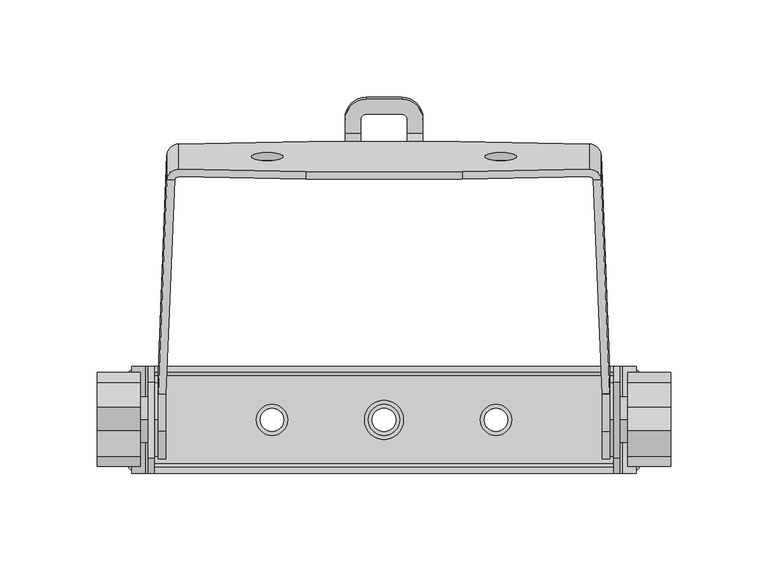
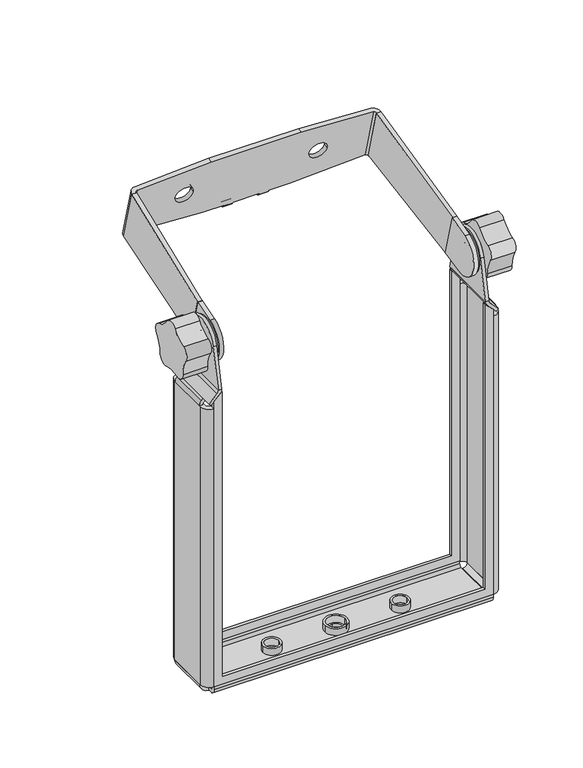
"""IFC4 building model written with IfcOpenShell, lengths in millimetres: proxy geometry, d&b U-Series U5 Swivel Bracket : d&b U-Series U5 Swivel Bracket."""

from ifc_helpers import new_model, si_unit, point, frame, frame_2d, origin, origin_2d, place, context, project, spatial, polyline, circle_curve, ellipse_curve, trimmed, segment, composite_curve, outline, extrude, source, transform, mapped, element, save
from ifc_brep_helpers import plane_surface, cylinder_surface, revolved_surface, advanced_brep


def communication_devices_1533c05a(model_context):
    return source(origin(), model_context, "Body", "SolidModel", [
        extrude(outline(composite_curve([segment(polyline([(13.2450116, 24.9632416), (23.9521373, -14.9962955), (4.4990211, -19.4874013)]), True, "CONTINUOUS"), segment(trimmed(circle_curve(origin_2d(), 20.0), [point((4.4990211, -19.4874013))], [point((-5.8474341, 19.1260951))], False, "CARTESIAN"), True, "CONTINUOUS"), segment(polyline([(-5.8474341, 19.1260951), (13.2450116, 24.9632416)]), True, "CONTINUOUS")], self_intersect=False)), frame((112.0, 0.0, 0.0), z_axis=(1.0, 0.0, 0.0), x_axis=(0.0, 1.0, 0.0)), (0.0, 0.0, 1.0), 4.0),
        extrude(outline(polyline([(50.6494, -1e-07), (1.1967784, -1e-07), (5.2119988, 115.0695853), (46.6310815, 115.0695852), (50.6494, -1e-07)])), frame((107.5178438, 136.2192095, 9.6625045), z_axis=(0.999229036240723, 0.037922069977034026, 0.010161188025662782), x_axis=(0.0, -0.25881904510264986, 0.9659258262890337)), (0.0, 0.0, 1.0), 4.0),
        extrude(outline(polyline([(115.1397253, 0.0), (0.0, 0.0), (-1.4455052, 41.3938513), (113.4138537, 49.4224964), (115.1397253, 0.0)])), frame((-112.0354545, 13.0872049, 24.9454313), z_axis=(-0.9992290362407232, 0.03792206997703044, 0.010161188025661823), x_axis=(0.039235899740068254, 0.9555605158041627, 0.2921722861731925)), (0.0, 0.0, 1.0), 4.0),
        advanced_brep(
        [(105.5193847, 124.8966904, 59.3428554), (40.2257983, 123.7149815, 63.7530528), (-40.2257983, 123.7149815, 63.7530528), (-105.5199471, 124.8967005, 59.3428174), (-105.5199471, 137.8351242, 11.0559629), (-38.8830085, 139.0411456, 6.5550299), (-20.0, 139.0411456, 6.5550299), (-20.0, 139.2764251, 5.6769548), (-12.0, 139.2764251, 5.6769548), (-12.0, 139.0411456, 6.5550299), (12.0, 139.0411456, 6.5550299), (12.0, 139.2764251, 5.6769548), (20.0, 139.2764251, 5.6769548), (20.0, 139.0411456, 6.5550299), (38.8830085, 139.0411456, 6.5550299), (105.5193847, 137.8351344, 11.0559249), (-68.015413, 131.3780635, 35.1540414), (-51.9395257, 131.3780635, 35.1540414), (68.015413, 131.3780635, 35.1540414), (51.9395257, 131.3780635, 35.1540414), (-105.5199471, 128.7604038, 60.3780936), (-40.2257983, 127.5786848, 64.788329), (40.2257983, 127.5786848, 64.788329), (105.5193847, 128.7603937, 60.3781316), (105.5193847, 141.6988377, 12.091201), (38.8830085, 142.9048489, 7.5903061), (20.0, 142.9048489, 7.5903061), (12.0, 142.9048489, 7.5903061), (-12.0, 142.9048489, 7.5903061), (-20.0, 142.9048489, 7.5903061), (-38.8830085, 142.9048489, 7.5903061), (-105.5199471, 141.6988275, 12.091239), (-51.9395257, 135.2417668, 36.1893175), (-68.015413, 135.2417668, 36.1893175), (51.9395257, 135.2417668, 36.1893175), (68.015413, 135.2417668, 36.1893175), (111.5141974, 123.3008455, 58.4812642), (107.5178428, 123.0768517, 58.7105556), (107.5178428, 135.942958, 10.6935932), (111.5141974, 136.0222966, 11.0041623), (-107.5184052, 123.0768619, 58.7105176), (-107.5184052, 135.9429478, 10.6936312), (-111.5147598, 123.3008556, 58.4812262), (-111.5147598, 136.0222864, 11.0042003), (-12.0, 148.3971842, 2.5474447), (-12.0, 155.158665, 4.359178), (-12.0, 154.1233888, 8.2228813), (-12.0, 147.361908, 6.411148), (-20.0, 147.361908, 6.411148), (-20.0, 154.1233888, 8.2228813), (-20.0, 155.158665, 4.359178), (-20.0, 148.3971842, 2.5474447), (-9.0, 157.0211663, 8.9993385), (9.0, 157.0211663, 8.9993385), (12.0, 154.1233888, 8.2228813), (12.0, 147.361908, 6.411148), (20.0, 147.361908, 6.411148), (20.0, 154.1233888, 8.2228813), (9.0, 164.7485729, 11.0698908), (-9.0, 164.7485729, 11.0698908), (-9.0, 165.7838491, 7.2061875), (9.0, 165.7838491, 7.2061875), (20.0, 155.158665, 4.359178), (20.0, 148.3971842, 2.5474447), (12.0, 148.3971842, 2.5474447), (12.0, 155.158665, 4.359178), (9.0, 158.0564425, 5.1356352), (-9.0, 158.0564425, 5.1356352)],
        [
            (0, 1),
            (1, 2),
            (2, 3),
            (3, 4),
            (4, 5),
            (5, 6),
            (6, 7),
            (7, 8),
            (8, 9),
            (9, 10),
            (10, 11),
            (11, 12),
            (12, 13),
            (13, 14),
            (14, 15),
            (15, 0),
            (16, 17, circle_curve(frame((-59.9774693, 131.3780635, 35.1540414), z_axis=(0.0, 0.9659258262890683, 0.2588190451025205), x_axis=(1.0, 0.0, 0.0)), 8.0379437)),
            (17, 16, circle_curve(frame((-59.9774693, 131.3780635, 35.1540414), z_axis=(0.0, 0.9659258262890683, 0.2588190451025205), x_axis=(1.0, 0.0, 0.0)), 8.0379437)),
            (18, 19, circle_curve(frame((59.9774693, 131.3780635, 35.1540414), z_axis=(0.0, 0.9659258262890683, 0.2588190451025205), x_axis=(-1.0, 0.0, 0.0)), 8.0379437)),
            (19, 18, circle_curve(frame((59.9774693, 131.3780635, 35.1540414), z_axis=(0.0, 0.9659258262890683, 0.2588190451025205), x_axis=(-1.0, 0.0, 0.0)), 8.0379437)),
            (20, 21),
            (21, 22),
            (22, 23),
            (23, 24),
            (24, 25),
            (25, 26),
            (26, 27),
            (27, 28),
            (28, 29),
            (29, 30),
            (30, 31),
            (31, 20),
            (32, 33, circle_curve(frame((-59.9774693, 135.2417668, 36.1893175), z_axis=(0.0, -0.9659258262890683, -0.2588190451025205), x_axis=(1.0, 0.0, 0.0)), 8.0379437)),
            (33, 32, circle_curve(frame((-59.9774693, 135.2417668, 36.1893175), z_axis=(0.0, -0.9659258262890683, -0.2588190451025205), x_axis=(1.0, 0.0, 0.0)), 8.0379437)),
            (34, 35, circle_curve(frame((59.9774693, 135.2417668, 36.1893175), z_axis=(0.0, -0.9659258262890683, -0.2588190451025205), x_axis=(-1.0, 0.0, 0.0)), 8.0379437)),
            (35, 34, circle_curve(frame((59.9774693, 135.2417668, 36.1893175), z_axis=(0.0, -0.9659258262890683, -0.2588190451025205), x_axis=(-1.0, 0.0, 0.0)), 8.0379437)),
            (36, 37),
            (37, 38),
            (38, 39),
            (39, 36),
            (17, 32),
            (33, 16),
            (19, 34),
            (35, 18),
            (3, 40, ellipse_curve(frame((-105.5199471, 122.9648489, 58.8251793), z_axis=(-0.0697564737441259, -0.2581885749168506, 0.9635728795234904), x_axis=(-0.9975640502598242, 0.018054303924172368, -0.06737957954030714)), 2.0048838, 2.0)),
            (40, 41),
            (41, 4, ellipse_curve(frame((-105.5199471, 135.9032726, 10.5383248), z_axis=(-0.06975647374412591, 0.2581885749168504, -0.9635728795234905), x_axis=(0.9975640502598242, 0.018054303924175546, -0.06737957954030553)), 2.0048838, 2.0)),
            (40, 42),
            (42, 43),
            (43, 41),
            (31, 43, ellipse_curve(frame((-105.5199471, 135.9038376, 10.5384762), z_axis=(0.06975647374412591, -0.2581885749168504, 0.9635728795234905), x_axis=(-0.9975640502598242, -0.018054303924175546, 0.06737957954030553)), 6.014065, 5.9994151)),
            (42, 20, ellipse_curve(frame((-105.5199471, 122.9654139, 58.8253307), z_axis=(0.0697564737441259, 0.2581885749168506, -0.9635728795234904), x_axis=(0.9975640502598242, -0.018054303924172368, 0.06737957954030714)), 6.014065, 5.9994151)),
            (39, 24, ellipse_curve(frame((105.5193847, 135.9038477, 10.5384382), z_axis=(-0.06975647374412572, -0.2581885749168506, 0.9635728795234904), x_axis=(0.9975640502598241, -0.018054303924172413, 0.06737957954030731)), 6.014065, 5.9994151)),
            (23, 36, ellipse_curve(frame((105.5193847, 122.9654037, 58.8253687), z_axis=(-0.06975647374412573, 0.25818857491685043, -0.9635728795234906), x_axis=(-0.9975640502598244, -0.018054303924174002, 0.06737957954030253)), 6.014065, 5.9994151)),
            (15, 38, ellipse_curve(frame((105.5193847, 135.9032827, 10.5382868), z_axis=(0.06975647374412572, 0.2581885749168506, -0.9635728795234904), x_axis=(-0.9975640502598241, 0.018054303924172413, -0.06737957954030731)), 2.0048838, 2.0)),
            (37, 0, ellipse_curve(frame((105.5193847, 122.9648387, 58.8252173), z_axis=(0.06975647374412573, -0.25818857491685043, 0.9635728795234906), x_axis=(0.9975640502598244, 0.018054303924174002, -0.06737957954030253)), 2.0048838, 2.0)),
            (14, 25),
            (13, 26),
            (29, 6),
            (5, 30),
            (27, 10),
            (9, 28),
            (2, 21),
            (1, 22),
            (8, 44, circle_curve(frame((-12.0, 146.1620649, 10.8890236), z_axis=(1.0, 0.0, 0.0), x_axis=(0.0, -0.9659258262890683, -0.2588190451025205)), 8.635838)),
            (44, 45),
            (45, 46),
            (46, 47),
            (47, 28, circle_curve(frame((-12.0, 146.1620649, 10.8890236), z_axis=(-1.0, 0.0, 0.0), x_axis=(0.0, -0.9659258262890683, -0.2588190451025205)), 4.635838)),
            (29, 48, circle_curve(frame((-20.0, 146.1620649, 10.8890236), z_axis=(1.0, 0.0, 0.0), x_axis=(0.0, -0.9659258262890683, -0.2588190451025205)), 4.635838)),
            (48, 49),
            (49, 50),
            (50, 51),
            (51, 7, circle_curve(frame((-20.0, 146.1620649, 10.8890236), z_axis=(-1.0, 0.0, 0.0), x_axis=(0.0, -0.9659258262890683, -0.2588190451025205)), 8.635838)),
            (46, 52, circle_curve(frame((-9.0, 154.1233888, 8.2228813), z_axis=(0.0, 0.2588190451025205, -0.9659258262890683), x_axis=(1.0, 0.0, 0.0)), 3.0)),
            (52, 53),
            (53, 54, circle_curve(frame((9.0, 154.1233888, 8.2228813), z_axis=(0.0, 0.2588190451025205, -0.9659258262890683), x_axis=(-1.0, 0.0, 0.0)), 3.0)),
            (54, 55),
            (55, 56),
            (56, 57),
            (57, 58, circle_curve(frame((9.0, 154.1233888, 8.2228813), z_axis=(0.0, -0.2588190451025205, 0.9659258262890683), x_axis=(-1.0, 0.0, 0.0)), 11.0)),
            (58, 59),
            (59, 49, circle_curve(frame((-9.0, 154.1233888, 8.2228813), z_axis=(0.0, -0.2588190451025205, 0.9659258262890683), x_axis=(1.0, 0.0, 0.0)), 11.0)),
            (48, 47),
            (44, 51),
            (50, 60, circle_curve(frame((-9.0, 155.158665, 4.359178), z_axis=(0.0, 0.2588190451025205, -0.9659258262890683), x_axis=(1.0, 0.0, 0.0)), 11.0)),
            (60, 61),
            (61, 62, circle_curve(frame((9.0, 155.158665, 4.359178), z_axis=(0.0, 0.2588190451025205, -0.9659258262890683), x_axis=(-1.0, 0.0, 0.0)), 11.0)),
            (62, 63),
            (63, 64),
            (64, 65),
            (65, 66, circle_curve(frame((9.0, 155.158665, 4.359178), z_axis=(0.0, -0.2588190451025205, 0.9659258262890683), x_axis=(-1.0, 0.0, 0.0)), 3.0)),
            (66, 67),
            (67, 45, circle_curve(frame((-9.0, 155.158665, 4.359178), z_axis=(0.0, -0.2588190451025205, 0.9659258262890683), x_axis=(1.0, 0.0, 0.0)), 3.0)),
            (27, 55, circle_curve(frame((12.0, 146.1620649, 10.8890236), z_axis=(1.0, 0.0, 0.0), x_axis=(0.0, -0.9659258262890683, -0.2588190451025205)), 4.635838)),
            (54, 65),
            (64, 11, circle_curve(frame((12.0, 146.1620649, 10.8890236), z_axis=(-1.0, 0.0, 0.0), x_axis=(0.0, -0.9659258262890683, -0.2588190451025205)), 8.635838)),
            (12, 63, circle_curve(frame((20.0, 146.1620649, 10.8890236), z_axis=(1.0, 0.0, 0.0), x_axis=(0.0, -0.9659258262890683, -0.2588190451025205)), 8.635838)),
            (62, 57),
            (56, 26, circle_curve(frame((20.0, 146.1620649, 10.8890236), z_axis=(-1.0, 0.0, 0.0), x_axis=(0.0, -0.9659258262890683, -0.2588190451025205)), 4.635838)),
            (52, 67),
            (66, 53),
            (59, 60),
            (58, 61),
        ],
        [
            plane_surface(frame((105.5193847, 118.7096214, 82.4333112), z_axis=(0.0, -0.9659258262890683, -0.2588190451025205), x_axis=(0.0, 0.2588190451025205, -0.9659258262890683))),
            plane_surface(frame((-105.5199471, 122.5733247, 83.4685873), z_axis=(0.0, 0.9659258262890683, 0.2588190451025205), x_axis=(0.0, 0.2588190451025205, -0.9659258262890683))),
            plane_surface(frame((111.5141974, 117.00528, 81.9766343), z_axis=(0.0392596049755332, -0.9651811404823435, -0.25861950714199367), x_axis=(0.0, 0.2588190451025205, -0.9659258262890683))),
            revolved_surface(polyline([(-51.9395256, 135.2417667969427, 36.18931751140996), (-51.9395256, 131.37806351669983, 35.1540413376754)]), (-59.9774693, 111.0936212, 29.7188414), (0.0, 0.9659258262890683, 0.2588190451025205)),
            revolved_surface(polyline([(51.9395256, 135.2417668, 36.1893175), (51.9395256, 131.37806351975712, 35.15404132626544)]), (59.9774693, 135.2417668, 36.1893175), (0.0, 0.9659258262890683, 0.2588190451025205)),
            revolved_surface(polyline([(-107.5199471, 135.93946934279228, 10.403236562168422), (-107.5199471, 122.92865210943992, 58.960267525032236)]), (-105.5199471, 140.0863371, -5.0730846), (0.0, 0.2588190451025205, -0.9659258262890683)),
            plane_surface(frame((-107.5184052, 116.8536139, 81.9359954), z_axis=(-0.039259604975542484, -0.9651811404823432, -0.2586195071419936), x_axis=(0.0, 0.2588190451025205, -0.9659258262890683))),
            cylinder_surface(frame((-105.5199471, 140.0869021, -5.0729332), z_axis=(0.0, -0.2588190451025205, 0.9659258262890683), x_axis=(-1.0, 0.0, 0.0)), 5.9994151),
            cylinder_surface(frame((105.5193847, 140.0869021, -5.0729332), z_axis=(0.0, -0.2588190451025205, 0.9659258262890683), x_axis=(1.0, 0.0, 0.0)), 5.9994151),
            revolved_surface(polyline([(107.5193847, 135.939479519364, 10.403198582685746), (107.5193847, 122.92864192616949, 58.96030552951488)]), (105.5193847, 140.0863371, -5.0730846), (0.0, 0.2588190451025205, -0.9659258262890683)),
            plane_surface(frame((141.9929542, 223.2862044, 36.5929217), z_axis=(0.06975647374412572, 0.2581885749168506, -0.9635728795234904), x_axis=(0.0, -0.9659258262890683, -0.2588190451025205))),
            plane_surface(frame((38.8830085, 225.1523285, 29.6284518), z_axis=(0.0, 0.2588190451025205, -0.9659258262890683), x_axis=(0.0, -0.9659258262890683, -0.2588190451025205))),
            plane_surface(frame((-38.8830085, 225.1523285, 29.6284518), z_axis=(-0.06975647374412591, 0.2581885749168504, -0.9635728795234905), x_axis=(0.0, -0.9659258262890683, -0.2588190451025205))),
            plane_surface(frame((-148.0070458, 211.7768315, 79.5464859), z_axis=(-0.0697564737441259, -0.2581885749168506, 0.9635728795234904), x_axis=(0.0, -0.9659258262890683, -0.2588190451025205))),
            plane_surface(frame((-40.2257983, 209.8261644, 86.8264747), z_axis=(0.0, -0.2588190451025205, 0.9659258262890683), x_axis=(0.0, -0.9659258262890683, -0.2588190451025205))),
            plane_surface(frame((40.2257983, 209.8261644, 86.8264747), z_axis=(0.06975647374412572, -0.2581885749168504, 0.9635728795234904), x_axis=(0.0, -0.9659258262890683, -0.2588190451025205))),
            plane_surface(frame((-12.0, 139.0411456, 6.5550299), z_axis=(1.0, 0.0, 0.0), x_axis=(0.0, 0.9659258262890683, 0.2588190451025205))),
            plane_surface(frame((-20.0, 139.0411456, 6.5550299), z_axis=(-1.0, 0.0, 0.0), x_axis=(0.0, -0.9659258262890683, -0.2588190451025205))),
            plane_surface(frame((-12.0, 147.361908, 6.411148), z_axis=(0.0, -0.258819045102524, 0.9659258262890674), x_axis=(-1.0, 0.0, 0.0))),
            plane_surface(frame((-12.0, 155.158665, 4.359178), z_axis=(0.0, 0.258819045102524, -0.9659258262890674), x_axis=(-1.0, 0.0, 0.0))),
            plane_surface(frame((12.0, 137.4509747, 12.4896283), z_axis=(-1.0000000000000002, 0.0, 0.0), x_axis=(0.0, 0.2588190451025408, -0.965925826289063))),
            plane_surface(frame((20.0, 137.4509747, 12.4896283), z_axis=(1.0000000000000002, 0.0, 0.0), x_axis=(0.0, -0.2588190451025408, 0.965925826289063))),
            plane_surface(frame((9.0, 157.0211663, 8.9993385), z_axis=(0.0, -0.9659258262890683, -0.2588190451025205), x_axis=(0.0, 0.2588190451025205, -0.9659258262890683))),
            revolved_surface(polyline([(-6.0, 155.158665, 4.359178), (-6.0, 154.12338880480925, 8.222881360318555)]), (-9.0, 155.158665, 4.359178), (0.0, 0.2588190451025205, -0.9659258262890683)),
            cylinder_surface(frame((-9.0, 155.158665, 4.359178), z_axis=(0.0, -0.2588190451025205, 0.9659258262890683), x_axis=(1.0, 0.0, 0.0)), 11.0),
            plane_surface(frame((-9.0, 164.7485729, 11.0698908), z_axis=(0.0, 0.9659258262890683, 0.2588190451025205), x_axis=(0.0, 0.2588190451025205, -0.9659258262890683))),
            cylinder_surface(frame((9.0, 155.158665, 4.359178), z_axis=(0.0, -0.2588190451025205, 0.9659258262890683), x_axis=(-1.0, 0.0, 0.0)), 11.0),
            revolved_surface(polyline([(6.0, 155.158665, 4.359178), (6.0, 154.12338880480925, 8.222881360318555)]), (9.0, 155.158665, 4.359178), (0.0, 0.2588190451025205, -0.9659258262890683)),
            revolved_surface(polyline([(-20.0, 141.68418924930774, 9.689180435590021), (-12.0, 141.68418924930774, 9.689180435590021)]), (-20.0, 146.1620649, 10.8890236), (-1.0, 0.0, 0.0)),
            cylinder_surface(frame((-20.0, 146.1620649, 10.8890236), z_axis=(1.0, 0.0, 0.0), x_axis=(0.0, -0.9659258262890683, -0.2588190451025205)), 8.635838),
            cylinder_surface(frame((20.0, 146.1620649, 10.8890236), z_axis=(-1.0, 0.0, 0.0), x_axis=(0.0, -0.9659258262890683, -0.2588190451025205)), 8.635838),
            revolved_surface(polyline([(20.0, 141.68418924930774, 9.689180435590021), (12.0, 141.68418924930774, 9.689180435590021)]), (20.0, 146.1620649, 10.8890236), (1.0, 0.0, 0.0)),
        ],
        [
            (0, [[1, 2, 3, 4, 5, 6, 7, 8, 9, 10, 11, 12, 13, 14, 15, 16], [17, 18], [19, 20]]),
            (1, [[21, 22, 23, 24, 25, 26, 27, 28, 29, 30, 31, 32], [33, 34], [35, 36]]),
            (2, [[37, 38, 39, 40]]),
            (3, [[-18, 41, -34, 42]]),
            (3, [[-33, -41, -17, -42]]),
            (4, [[-20, 43, -36, 44]]),
            (4, [[-35, -43, -19, -44]]),
            (5, [[45, 46, 47, -4]]),
            (6, [[48, 49, 50, -46]]),
            (7, [[51, -49, 52, -32]]),
            (8, [[53, -24, 54, -40]]),
            (9, [[55, -38, 56, -16]]),
            (10, [[-25, -53, -39, -55, -15, 57]]),
            (11, [[-14, 58, -26, -57]]),
            (11, [[-30, 59, -6, 60]]),
            (11, [[-28, 61, -10, 62]]),
            (12, [[-5, -47, -50, -51, -31, -60]]),
            (13, [[-21, -52, -48, -45, -3, 63]]),
            (14, [[-2, 64, -22, -63]]),
            (15, [[-1, -56, -37, -54, -23, -64]]),
            (16, [[-62, -9, 65, 66, 67, 68, 69]]),
            (17, [[-59, 70, 71, 72, 73, 74, -7]]),
            (18, [[75, 76, 77, 78, 79, 80, 81, 82, 83, -71, 84, -68]]),
            (19, [[85, -73, 86, 87, 88, 89, 90, 91, 92, 93, 94, -66]]),
            (20, [[-61, 95, -78, 96, -91, 97, -11]]),
            (21, [[-58, -13, 98, -89, 99, -80, 100]]),
            (22, [[101, -93, 102, -76]]),
            (23, [[-67, -94, -101, -75]]),
            (24, [[103, -86, -72, -83]]),
            (25, [[104, -87, -103, -82]]),
            (26, [[-99, -88, -104, -81]]),
            (27, [[-102, -92, -96, -77]]),
            (28, [[-84, -70, -29, -69]]),
            (29, [[-8, -74, -85, -65]]),
            (30, [[-90, -98, -12, -97]]),
            (31, [[-27, -100, -79, -95]]),
        ],
    ),
        advanced_brep(
        [(-116.0, -5.8474341, 19.1260951), (-116.0, -5.1795361, 19.330292), (-116.0, 13.2450116, 24.9632416), (-116.0, 23.9521373, -14.9962955), (-116.0, 5.1795361, -19.330292), (-116.0, 4.4990211, -19.4874013), (-112.0, 13.2450116, 24.9632416), (-112.0, -5.1795361, 19.330292), (-112.0, -5.8474341, 19.1260951), (-112.0, 4.4990211, -19.4874013), (-112.0, 5.1795361, -19.330292), (-112.0, 23.9521373, -14.9962955)],
        [
            (0, 1),
            (1, 2),
            (2, 3),
            (3, 4),
            (4, 5),
            (5, 0, circle_curve(frame((-116.0, 0.0, 0.0), z_axis=(-1.0, 0.0, 0.0), x_axis=(0.0, 0.9659258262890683, 0.2588190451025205)), 20.0)),
            (6, 7),
            (7, 8),
            (8, 9, circle_curve(frame((-112.0, 0.0, 0.0), z_axis=(1.0, 0.0, 0.0), x_axis=(0.0, 0.9659258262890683, 0.2588190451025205)), 20.0)),
            (9, 10),
            (10, 11),
            (11, 6),
            (5, 9),
            (8, 0),
            (2, 6),
            (11, 3),
        ],
        [
            plane_surface(frame((-116.0, -5.8474341, 19.1260951), z_axis=(-1.0000000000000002, 0.0, 0.0), x_axis=(0.0, -0.9563047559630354, -0.2923717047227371))),
            plane_surface(frame((-112.0, -5.8474341, 19.1260951), z_axis=(1.0000000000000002, 0.0, 0.0), x_axis=(0.0, 0.9563047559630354, 0.2923717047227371))),
            cylinder_surface(frame((-112.0, 0.0, 0.0), z_axis=(-1.0, 0.0, 0.0), x_axis=(0.0, 0.9659258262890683, 0.2588190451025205)), 20.0),
            plane_surface(frame((-116.0, 23.9521373, -14.9962955), z_axis=(0.0, 0.965925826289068, 0.2588190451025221), x_axis=(1.0, 0.0, 0.0))),
            plane_surface(frame((-116.0, 4.4990211, -19.4874013), z_axis=(0.0, 0.22495105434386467, -0.9743700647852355), x_axis=(1.0, 0.0, 0.0))),
            plane_surface(frame((-116.0, 13.2450116, 24.9632416), z_axis=(0.0, -0.2923717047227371, 0.9563047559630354), x_axis=(1.0, 0.0, 0.0))),
        ],
        [
            (0, [[1, 2, 3, 4, 5, 6]]),
            (1, [[7, 8, 9, 10, 11, 12]]),
            (2, [[13, -9, 14, -6]]),
            (3, [[15, -12, 16, -3]]),
            (4, [[-11, -10, -13, -5, -4, -16]]),
            (5, [[-2, -1, -14, -8, -7, -15]]),
        ],
    ),
        extrude(outline(polyline([(-304.0, 118.0), (-304.0, -118.0), (-34.7, -118.0), (-41.6738979, -124.9738979), (-311.0, -124.9738979), (-311.0, 124.9738979), (-41.6738979, 124.9738979), (-34.7, 118.0), (-304.0, 118.0)])), frame((0.0, 24.5279598, 0.0), z_axis=(0.0, 1.0, 0.0), x_axis=(0.0, 0.0, 1.0)), (0.0, 0.0, 1.0), 3.0),
        extrude(outline(polyline([(-304.0, 118.0), (-304.0, -118.0), (-34.7, -118.0), (-41.6738979, -124.9738979), (-311.0, -124.9738979), (-311.0, 124.9738979), (-41.6738979, 124.9738979), (-34.7, 118.0), (-304.0, 118.0)])), frame((0.0, -27.5279598, 0.0), z_axis=(0.0, 1.0, 0.0), x_axis=(0.0, 0.0, 1.0)), (0.0, 0.0, 1.0), 3.0),
        extrude(outline(composite_curve([segment(trimmed(circle_curve(origin_2d(), 10.0), [point((-10.0, 0.0))], [point((10.0, 0.0))], False, "CARTESIAN"), True, "CONTINUOUS"), segment(trimmed(circle_curve(origin_2d(), 10.0), [point((10.0, 0.0))], [point((-10.0, 0.0))], False, "CARTESIAN"), True, "CONTINUOUS")], self_intersect=False), holes=[composite_curve([segment(trimmed(circle_curve(origin_2d(), 8.0), [point((-8.0, 0.0))], [point((8.0, 0.0))], True, "CARTESIAN"), True, "CONTINUOUS"), segment(trimmed(circle_curve(origin_2d(), 8.0), [point((8.0, 0.0))], [point((-8.0, 0.0))], True, "CARTESIAN"), True, "CONTINUOUS")], self_intersect=False)]), frame((0.0, 0.0, -316.1), z_axis=(0.0, 0.0, 1.0), x_axis=(1.0, 0.0, 0.0)), (0.0, 0.0, 1.0), 6.5),
        extrude(outline(composite_curve([segment(trimmed(circle_curve(frame_2d((-57.5, 0.0)), 8.0), [point((-65.5, 0.0))], [point((-49.5, 0.0))], False, "CARTESIAN"), True, "CONTINUOUS"), segment(trimmed(circle_curve(frame_2d((-57.5, 0.0)), 8.0), [point((-49.5, 0.0))], [point((-65.5, 0.0))], False, "CARTESIAN"), True, "CONTINUOUS")], self_intersect=False), holes=[composite_curve([segment(trimmed(circle_curve(frame_2d((-57.5, 0.0)), 6.0), [point((-63.5, 0.0))], [point((-51.5, 0.0))], True, "CARTESIAN"), True, "CONTINUOUS"), segment(trimmed(circle_curve(frame_2d((-57.5, 0.0)), 6.0), [point((-51.5, 0.0))], [point((-63.5, 0.0))], True, "CARTESIAN"), True, "CONTINUOUS")], self_intersect=False)]), frame((0.0, 0.0, -316.1), z_axis=(0.0, 0.0, 1.0), x_axis=(1.0, 0.0, 0.0)), (0.0, 0.0, 1.0), 6.5),
        extrude(outline(composite_curve([segment(trimmed(circle_curve(frame_2d((57.5, 0.0)), 8.0), [point((49.5, 0.0))], [point((65.5, 0.0))], False, "CARTESIAN"), True, "CONTINUOUS"), segment(trimmed(circle_curve(frame_2d((57.5, 0.0)), 8.0), [point((65.5, 0.0))], [point((49.5, 0.0))], False, "CARTESIAN"), True, "CONTINUOUS")], self_intersect=False), holes=[composite_curve([segment(trimmed(circle_curve(frame_2d((57.5, 0.0)), 6.0), [point((51.5, 0.0))], [point((63.5, 0.0))], True, "CARTESIAN"), True, "CONTINUOUS"), segment(trimmed(circle_curve(frame_2d((57.5, 0.0)), 6.0), [point((63.5, 0.0))], [point((51.5, 0.0))], True, "CARTESIAN"), True, "CONTINUOUS")], self_intersect=False)]), frame((0.0, 0.0, -316.1), z_axis=(0.0, 0.0, 1.0), x_axis=(1.0, 0.0, 0.0)), (0.0, 0.0, 1.0), 6.5),
        extrude(outline(composite_curve([segment(polyline([(-27.5, -32.2147186), (-19.5458509, 4.2805128)]), True, "CONTINUOUS"), segment(trimmed(circle_curve(frame_2d((-0.0046385, 0.0214984)), 19.9999547), [point((-19.5458509, 4.2805128))], [point((19.5494989, 4.2207718))], False, "CARTESIAN"), True, "CONTINUOUS"), segment(polyline([(19.5494989, 4.2207718), (27.5, -32.2147186), (-27.5, -32.2147186)]), True, "CONTINUOUS")], self_intersect=False), holes=[composite_curve([segment(trimmed(circle_curve(origin_2d(), 6.0), [point((6.0, 0.0))], [point((-6.0, 0.0))], True, "CARTESIAN"), True, "CONTINUOUS"), segment(trimmed(circle_curve(origin_2d(), 6.0), [point((-6.0, 0.0))], [point((6.0, 0.0))], True, "CARTESIAN"), True, "CONTINUOUS")], self_intersect=False)]), frame((118.0430088, 0.0, 0.0), z_axis=(1.0, 0.0, 0.0), x_axis=(0.0, 1.0, 0.0)), (0.0, 0.0, 1.0), 3.0),
        extrude(outline(composite_curve([segment(polyline([(-27.5, -32.2147186), (-19.5458509, 4.2805128)]), True, "CONTINUOUS"), segment(trimmed(circle_curve(frame_2d((-0.0046385, 0.0214984)), 19.9999547), [point((-19.5458509, 4.2805128))], [point((19.5494989, 4.2207718))], False, "CARTESIAN"), True, "CONTINUOUS"), segment(polyline([(19.5494989, 4.2207718), (27.5, -32.2147186), (-27.5, -32.2147186)]), True, "CONTINUOUS")], self_intersect=False), holes=[composite_curve([segment(trimmed(circle_curve(origin_2d(), 6.0), [point((6.0, 0.0))], [point((-6.0, 0.0))], True, "CARTESIAN"), True, "CONTINUOUS"), segment(trimmed(circle_curve(origin_2d(), 6.0), [point((-6.0, 0.0))], [point((6.0, 0.0))], True, "CARTESIAN"), True, "CONTINUOUS")], self_intersect=False)]), frame((-121.0430088, 0.0, 0.0), z_axis=(1.0, 0.0, 0.0), x_axis=(0.0, 1.0, 0.0)), (0.0, 0.0, 1.0), 3.0),
        extrude(outline(composite_curve([segment(polyline([(-42.0714231, 129.6140638), (-34.9218254, 122.4644661)]), True, "CONTINUOUS"), segment(trimmed(circle_curve(frame_2d((-31.3862915, 126.0)), 5.0), [point((-34.9218254, 122.4644661))], [point((-32.2147186, 121.0691067))], True, "CARTESIAN"), True, "CONTINUOUS"), segment(polyline([(-32.2147186, 121.0691067), (-32.2147186, 118.0430088)]), True, "CONTINUOUS"), segment(trimmed(circle_curve(frame_2d((-31.3862915, 126.0)), 8.0), [point((-32.2147186, 118.0430088))], [point((-37.0431458, 120.3431458))], False, "CARTESIAN"), True, "CONTINUOUS"), segment(polyline([(-37.0431458, 120.3431458), (-44.1927435, 127.4927435), (-42.0714231, 129.6140638)]), True, "CONTINUOUS")], self_intersect=False)), frame((0.0, -27.5, 0.0), z_axis=(0.0, 1.0, 0.0), x_axis=(0.0, 0.0, 1.0)), (0.0, 0.0, 1.0), 55.0),
        extrude(outline(composite_curve([segment(polyline([(-42.0714231, -129.6140638), (-44.1927435, -127.4927435), (-37.0431458, -120.3431458)]), True, "CONTINUOUS"), segment(trimmed(circle_curve(frame_2d((-31.3862915, -126.0)), 8.0), [point((-37.0431458, -120.3431458))], [point((-32.2147186, -118.0430088))], False, "CARTESIAN"), True, "CONTINUOUS"), segment(polyline([(-32.2147186, -118.0430088), (-32.2147186, -121.0691067)]), True, "CONTINUOUS"), segment(trimmed(circle_curve(frame_2d((-31.3862915, -126.0)), 5.0), [point((-32.2147186, -121.0691067))], [point((-34.9218254, -122.4644661))], True, "CARTESIAN"), True, "CONTINUOUS"), segment(polyline([(-34.9218254, -122.4644661), (-42.0714231, -129.6140638)]), True, "CONTINUOUS")], self_intersect=False)), frame((0.0, -27.5, 0.0), z_axis=(0.0, 1.0, 0.0), x_axis=(0.0, 0.0, 1.0)), (0.0, 0.0, 1.0), 55.0),
        extrude(outline(composite_curve([segment(polyline([(-48.0, 130.0), (-48.0, 133.0)]), True, "CONTINUOUS"), segment(trimmed(circle_curve(frame_2d((-47.9432877, 126.999353)), 6.000915), [point((-48.0, 133.0))], [point((-43.7, 131.2426407))], False, "CARTESIAN"), True, "CONTINUOUS"), segment(polyline([(-43.7, 131.2426407), (-42.0714231, 129.6140638), (-44.1927435, 127.4927435), (-45.8213203, 129.1213203)]), True, "CONTINUOUS"), segment(trimmed(circle_curve(frame_2d((-47.9439061, 126.9987346)), 3.0017896), [point((-45.8213203, 129.1213203))], [point((-48.0, 130.0))], True, "CARTESIAN"), True, "CONTINUOUS")], self_intersect=False)), frame((0.0, -18.7, 0.0), z_axis=(0.0, 1.0, 0.0), x_axis=(0.0, 0.0, 1.0)), (0.0, 0.0, 1.0), 37.4),
        extrude(outline(composite_curve([segment(trimmed(circle_curve(frame_2d((-47.9439061, -126.9987346)), 3.0017896), [point((-48.0, -130.0))], [point((-45.8213203, -129.1213203))], True, "CARTESIAN"), True, "CONTINUOUS"), segment(polyline([(-45.8213203, -129.1213203), (-44.1927435, -127.4927435), (-42.0714231, -129.6140638), (-43.7, -131.2426407)]), True, "CONTINUOUS"), segment(trimmed(circle_curve(frame_2d((-47.9432877, -126.999353)), 6.000915), [point((-43.7, -131.2426407))], [point((-48.0, -133.0))], False, "CARTESIAN"), True, "CONTINUOUS"), segment(polyline([(-48.0, -133.0), (-48.0, -130.0)]), True, "CONTINUOUS")], self_intersect=False)), frame((0.0, -18.7, 0.0), z_axis=(0.0, 1.0, 0.0), x_axis=(0.0, 0.0, 1.0)), (0.0, 0.0, 1.0), 37.4),
        extrude(outline(composite_curve([segment(trimmed(circle_curve(frame_2d((27.151281, 35.7782371)), 25.0), [point((6.4330521, 21.7869901))], [point((19.2519239, 12.0590433))], True, "CARTESIAN"), True, "CONTINUOUS"), segment(trimmed(circle_curve(frame_2d((16.9397501, 5.1163393)), 7.3176011), [point((19.2519239, 12.0590433))], [point((22.7085813, 0.614354))], False, "CARTESIAN"), True, "CONTINUOUS"), segment(trimmed(circle_curve(frame_2d((42.4173328, -14.7663194)), 25.0), [point((22.7085813, 0.614354))], [point((17.4180033, -14.5832183))], True, "CARTESIAN"), True, "CONTINUOUS"), segment(trimmed(circle_curve(frame_2d((10.1005985, -14.5296239)), 7.3176011), [point((17.4180033, -14.5832183))], [point((7.601623, -21.4072984))], False, "CARTESIAN"), True, "CONTINUOUS"), segment(trimmed(circle_curve(frame_2d((-0.9359276, -44.9043244)), 25.0), [point((7.601623, -21.4072984))], [point((-8.4870058, -21.0719679))], True, "CARTESIAN"), True, "CONTINUOUS"), segment(trimmed(circle_curve(frame_2d((-10.6972369, -14.0961408)), 7.3176011), [point((-8.4870058, -21.0719679))], [point((-18.01052, -13.8447921))], False, "CARTESIAN"), True, "CONTINUOUS"), segment(trimmed(circle_curve(frame_2d((-42.9957679, -12.9860793)), 25.0), [point((-18.01052, -13.8447921))], [point((-22.6632614, 1.560026))], True, "CARTESIAN"), True, "CONTINUOUS"), segment(trimmed(circle_curve(frame_2d((-16.7118545, 5.8177298)), 7.3176011), [point((-22.6632614, 1.560026))], [point((-18.7327365, 12.8507464))], False, "CARTESIAN"), True, "CONTINUOUS"), segment(trimmed(circle_curve(frame_2d((-25.6369183, 36.878486)), 25.0), [point((-18.7327365, 12.8507464))], [point((-5.51966, 22.036117))], True, "CARTESIAN"), True, "CONTINUOUS"), segment(trimmed(circle_curve(frame_2d((0.3687428, 17.6916955)), 7.3176011), [point((-5.51966, 22.036117))], [point((6.4330521, 21.7869901))], False, "CARTESIAN"), True, "CONTINUOUS")], self_intersect=False)), frame((125.2399235, 0.0, 0.0), z_axis=(1.0, 0.0, 0.0), x_axis=(0.0, 1.0, 0.0)), (0.0, 0.0, 1.0), 22.0),
        advanced_brep(
        [(125.2399235, 0.0, -11.75), (125.2399235, 0.0, 0.0), (125.2399235, 0.0, 11.75), (121.0430088, 0.0, 0.0), (121.0430088, 0.0, -11.75), (121.0430088, 0.0, 11.75)],
        [
            (0, 1),
            (1, 2),
            (2, 0, circle_curve(frame((125.2399235, 0.0, 0.0), z_axis=(1.0, 0.0, 0.0), x_axis=(0.0, 0.0, 1.0)), 11.75)),
            (0, 2, circle_curve(frame((125.2399235, 0.0, 0.0), z_axis=(1.0, 0.0, 0.0), x_axis=(0.0, 0.0, 1.0)), 11.75)),
            (3, 4),
            (4, 5, circle_curve(frame((121.0430088, 0.0, 0.0), z_axis=(-1.0, 0.0, 0.0), x_axis=(0.0, 0.0, 1.0)), 11.75)),
            (5, 3),
            (5, 4, circle_curve(frame((121.0430088, 0.0, 0.0), z_axis=(-1.0, 0.0, 0.0), x_axis=(0.0, 0.0, 1.0)), 11.75)),
            (4, 0),
            (2, 5),
        ],
        [
            plane_surface(frame((125.2399235, 0.0, 0.0), z_axis=(1.0, 0.0, 0.0), x_axis=(0.0, 0.0, 1.0))),
            plane_surface(frame((121.0430088, 0.0, 0.0), z_axis=(-1.0, 0.0, 0.0), x_axis=(0.0, 0.0, 1.0))),
            cylinder_surface(frame((130.2, 0.0, 0.0), z_axis=(-1.0, 0.0, 0.0), x_axis=(0.0, 0.0, 1.0)), 11.75),
        ],
        [
            (0, [[1, 2, 3]]),
            (0, [[-2, -1, 4]]),
            (1, [[5, 6, 7]]),
            (1, [[-7, 8, -5]]),
            (2, [[9, -3, 10, -6]]),
            (2, [[-10, -4, -9, -8]]),
        ],
    ),
        advanced_brep(
        [(115.9953742, 0.0, -19.0085486), (118.0, 0.0, -19.0085486), (118.0, 0.0, 19.0085486), (115.9953742, 0.0, 19.0085486), (118.0, 0.0, 0.0), (115.9953742, 0.0, 0.0)],
        [
            (0, 1),
            (1, 2, circle_curve(frame((118.0, 0.0, 0.0), z_axis=(-1.0, 0.0, 0.0), x_axis=(0.0, 0.0, 1.0)), 19.0085486)),
            (2, 3),
            (3, 0, circle_curve(frame((115.9953742, 0.0, 0.0), z_axis=(1.0, 0.0, 0.0), x_axis=(0.0, 0.0, 1.0)), 19.0085486)),
            (2, 1, circle_curve(frame((118.0, 0.0, 0.0), z_axis=(-1.0, 0.0, 0.0), x_axis=(0.0, 0.0, 1.0)), 19.0085486)),
            (0, 3, circle_curve(frame((115.9953742, 0.0, 0.0), z_axis=(1.0, 0.0, 0.0), x_axis=(0.0, 0.0, 1.0)), 19.0085486)),
            (1, 4),
            (4, 2),
            (5, 0),
            (3, 5),
        ],
        [
            cylinder_surface(frame((130.2, 0.0, 0.0), z_axis=(-1.0, 0.0, 0.0), x_axis=(0.0, 0.0, 1.0)), 19.0085486),
            plane_surface(frame((118.0, 0.0, 0.0), z_axis=(1.0, 0.0, 0.0), x_axis=(0.0, 0.0, 1.0))),
            plane_surface(frame((115.9953742, 0.0, 0.0), z_axis=(-1.0, 0.0, 0.0), x_axis=(0.0, 0.0, 1.0))),
        ],
        [
            (0, [[1, 2, 3, 4]]),
            (0, [[-3, 5, -1, 6]]),
            (1, [[7, 8, -2]]),
            (1, [[-8, -7, -5]]),
            (2, [[9, -4, 10]]),
            (2, [[-10, -6, -9]]),
        ],
    ),
        advanced_brep(
        [(124.9309407, -24.6550944, -311.0), (124.9309407, -27.5279598, -311.0), (124.9309407, -27.5279598, -314.0), (124.9309407, -22.5279598, -319.0), (124.9309407, 22.5156136, -319.0), (124.9309407, 27.5156136, -314.0), (124.9309407, 27.5156136, -311.0), (124.9309407, 24.6427482, -311.0), (124.9309407, 24.6427482, -314.0), (124.9309407, 22.5156136, -316.1), (124.9309407, -22.5279598, -316.1), (124.9309407, -24.6279598, -314.0), (-124.9309407, -24.6550944, -311.0), (-124.9309407, -24.6550944, -314.0), (-124.9309407, -22.5279598, -316.1), (-124.9309407, 22.5156136, -316.1), (-124.9309407, 24.6156136, -314.0), (-124.9309407, 24.6427482, -311.0), (-124.9309407, 27.5156136, -311.0), (-124.9309407, 27.5156136, -314.0), (-124.9309407, 22.5156136, -319.0), (-124.9309407, -22.5279598, -319.0), (-124.9309407, -27.5279598, -314.0), (-124.9309407, -27.5279598, -311.0), (-57.5, -6.0, -316.1), (-57.5, 6.0, -316.1), (0.0, 6.0, -316.1), (0.0, -6.0, -316.1), (57.5, 6.0, -316.1), (57.5, -6.0, -316.1), (-57.5, 6.0, -319.0), (-57.5, -6.0, -319.0), (0.0, -6.0, -319.0), (0.0, 6.0, -319.0), (57.5, -6.0, -319.0), (57.5, 6.0, -319.0)],
        [
            (0, 1),
            (1, 2),
            (2, 3, circle_curve(frame((124.9309407, -22.5279598, -314.0), z_axis=(1.0, 0.0, 0.0), x_axis=(0.0, -1.0, 0.0)), 5.0)),
            (3, 4),
            (4, 5, circle_curve(frame((124.9309407, 22.5156136, -314.0), z_axis=(1.0, 0.0, 0.0), x_axis=(0.0, -1.0, 0.0)), 5.0)),
            (5, 6),
            (6, 7),
            (7, 8),
            (8, 9, circle_curve(frame((124.9309407, 22.5156136, -314.0), z_axis=(-1.0, 0.0, 0.0), x_axis=(0.0, -1.0, 0.0)), 2.1)),
            (9, 10),
            (10, 11, circle_curve(frame((124.9309407, -22.5279598, -314.0), z_axis=(-1.0, 0.0, 0.0), x_axis=(0.0, -1.0, 0.0)), 2.1)),
            (11, 0),
            (12, 13),
            (13, 14, circle_curve(frame((-124.9309407, -22.5279598, -314.0), z_axis=(1.0, 0.0, 0.0), x_axis=(0.0, -1.0, 0.0)), 2.1)),
            (14, 15),
            (15, 16, circle_curve(frame((-124.9309407, 22.5156136, -314.0), z_axis=(1.0, 0.0, 0.0), x_axis=(0.0, -1.0, 0.0)), 2.1)),
            (16, 17),
            (17, 18),
            (18, 19),
            (19, 20, circle_curve(frame((-124.9309407, 22.5156136, -314.0), z_axis=(-1.0, 0.0, 0.0), x_axis=(0.0, -1.0, 0.0)), 5.0)),
            (20, 21),
            (21, 22, circle_curve(frame((-124.9309407, -22.5279598, -314.0), z_axis=(-1.0, 0.0, 0.0), x_axis=(0.0, -1.0, 0.0)), 5.0)),
            (22, 23),
            (23, 12),
            (11, 13),
            (12, 0),
            (10, 14),
            (9, 15),
            (24, 25, circle_curve(frame((-57.5, 0.0, -316.1), z_axis=(0.0, 0.0, -1.0), x_axis=(0.0, -1.0, 0.0)), 6.0)),
            (25, 24, circle_curve(frame((-57.5, 0.0, -316.1), z_axis=(0.0, 0.0, -1.0), x_axis=(0.0, -1.0, 0.0)), 6.0)),
            (26, 27, circle_curve(frame((0.0, 0.0, -316.1), z_axis=(0.0, 0.0, -1.0), x_axis=(0.0, -1.0, 0.0)), 6.0)),
            (27, 26, circle_curve(frame((0.0, 0.0, -316.1), z_axis=(0.0, 0.0, -1.0), x_axis=(0.0, -1.0, 0.0)), 6.0)),
            (28, 29, circle_curve(frame((57.5, 0.0, -316.1), z_axis=(0.0, 0.0, -1.0), x_axis=(0.0, -1.0, 0.0)), 6.0)),
            (29, 28, circle_curve(frame((57.5, 0.0, -316.1), z_axis=(0.0, 0.0, -1.0), x_axis=(0.0, -1.0, 0.0)), 6.0)),
            (8, 16),
            (7, 17),
            (6, 18),
            (5, 19),
            (4, 20),
            (3, 21),
            (30, 31, circle_curve(frame((-57.5, 0.0, -319.0), z_axis=(0.0, 0.0, 1.0), x_axis=(0.0, -1.0, 0.0)), 6.0)),
            (31, 30, circle_curve(frame((-57.5, 0.0, -319.0), z_axis=(0.0, 0.0, 1.0), x_axis=(0.0, -1.0, 0.0)), 6.0)),
            (32, 33, circle_curve(frame((0.0, 0.0, -319.0), z_axis=(0.0, 0.0, 1.0), x_axis=(0.0, -1.0, 0.0)), 6.0)),
            (33, 32, circle_curve(frame((0.0, 0.0, -319.0), z_axis=(0.0, 0.0, 1.0), x_axis=(0.0, -1.0, 0.0)), 6.0)),
            (34, 35, circle_curve(frame((57.5, 0.0, -319.0), z_axis=(0.0, 0.0, 1.0), x_axis=(0.0, -1.0, 0.0)), 6.0)),
            (35, 34, circle_curve(frame((57.5, 0.0, -319.0), z_axis=(0.0, 0.0, 1.0), x_axis=(0.0, -1.0, 0.0)), 6.0)),
            (2, 22),
            (1, 23),
            (31, 24),
            (25, 30),
            (33, 26),
            (27, 32),
            (35, 28),
            (29, 34),
        ],
        [
            plane_surface(frame((124.9309407, -24.6550944, -307.0), z_axis=(1.0, 0.0, 0.0), x_axis=(0.0, 0.0, -1.0))),
            plane_surface(frame((-124.9309407, -24.6550944, -307.0), z_axis=(-1.0, 0.0, 0.0), x_axis=(0.0, 0.0, 1.0))),
            plane_surface(frame((124.9309407, -24.6550944, -311.0), z_axis=(0.0, 1.0, 0.0), x_axis=(-1.0, 0.0, 0.0))),
            revolved_surface(polyline([(-124.9309407, -24.627959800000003, -314.0), (124.9309407, -24.627959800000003, -314.0)]), (-124.9309407, -22.5279598, -314.0), (-1.0, 0.0, 0.0)),
            plane_surface(frame((124.9309407, -22.5279598, -316.1), z_axis=(0.0, 0.0, 1.0), x_axis=(-1.0, 0.0, 0.0))),
            revolved_surface(polyline([(-124.9309407, 20.415613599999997, -314.0), (124.9309407, 20.415613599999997, -314.0)]), (-124.9309407, 22.5156136, -314.0), (-1.0, 0.0, 0.0)),
            plane_surface(frame((124.9309407, 24.6427482, -314.0), z_axis=(0.0, -1.0, 0.0), x_axis=(-1.0, 0.0, 0.0))),
            plane_surface(frame((124.9309407, 24.6427482, -311.0), z_axis=(0.0, 0.0, 1.0), x_axis=(-1.0, 0.0, 0.0))),
            plane_surface(frame((124.9309407, 27.5156136, -311.0), z_axis=(0.0, 1.0, 0.0), x_axis=(-1.0, 0.0, 0.0))),
            cylinder_surface(frame((-124.9309407, 22.5156136, -314.0), z_axis=(1.0, 0.0, 0.0), x_axis=(0.0, -1.0, 0.0)), 5.0),
            plane_surface(frame((124.9309407, 22.5156136, -319.0), z_axis=(0.0, 0.0, -1.0), x_axis=(-1.0, 0.0, 0.0))),
            cylinder_surface(frame((-124.9309407, -22.5279598, -314.0), z_axis=(1.0, 0.0, 0.0), x_axis=(0.0, -1.0, 0.0)), 5.0),
            plane_surface(frame((124.9309407, -27.5279598, -314.0), z_axis=(0.0, -1.0, 0.0), x_axis=(-1.0, 0.0, 0.0))),
            plane_surface(frame((124.9309407, -27.5279598, -311.0), z_axis=(0.0, 0.0, 1.0), x_axis=(-1.0, 0.0, 0.0))),
            revolved_surface(polyline([(-57.5, -6.0, -316.1), (-57.5, -6.0, -319.0)]), (-57.5, 0.0, -346.6362503), (0.0, 0.0, 1.0)),
            revolved_surface(polyline([(0.0, -6.0, -316.1), (0.0, -6.0, -319.0)]), (0.0, 0.0, -370.0), (0.0, 0.0, 1.0)),
            revolved_surface(polyline([(57.5, -6.0, -316.1), (57.5, -6.0, -319.0)]), (57.5, 0.0, -370.0), (0.0, 0.0, 1.0)),
        ],
        [
            (0, [[1, 2, 3, 4, 5, 6, 7, 8, 9, 10, 11, 12]]),
            (1, [[13, 14, 15, 16, 17, 18, 19, 20, 21, 22, 23, 24]]),
            (2, [[25, -13, 26, -12]]),
            (3, [[27, -14, -25, -11]]),
            (4, [[28, -15, -27, -10], [29, 30], [31, 32], [33, 34]]),
            (5, [[35, -16, -28, -9]]),
            (6, [[36, -17, -35, -8]]),
            (7, [[37, -18, -36, -7]]),
            (8, [[38, -19, -37, -6]]),
            (9, [[39, -20, -38, -5]]),
            (10, [[40, -21, -39, -4], [41, 42], [43, 44], [45, 46]]),
            (11, [[47, -22, -40, -3]]),
            (12, [[48, -23, -47, -2]]),
            (13, [[-26, -24, -48, -1]]),
            (14, [[-42, 49, -30, 50]]),
            (14, [[-29, -49, -41, -50]]),
            (15, [[-44, 51, -32, 52]]),
            (15, [[-31, -51, -43, -52]]),
            (16, [[-46, 53, -34, 54]]),
            (16, [[-33, -53, -45, -54]]),
        ],
    ),
        extrude(outline(composite_curve([segment(trimmed(circle_curve(frame_2d((124.9309407, -19.5018577)), 8.0261021), [point((132.9570429, -19.5018577))], [point((124.9309407, -27.5279598))], False, "CARTESIAN"), True, "CONTINUOUS"), segment(polyline([(124.9309407, -27.5279598), (124.9309407, -23.5263009)]), True, "CONTINUOUS"), segment(trimmed(circle_curve(frame_2d((124.9309407, -19.5)), 4.0263009), [point((124.9309407, -23.5263009))], [point((128.9572417, -19.5))], True, "CARTESIAN"), True, "CONTINUOUS"), segment(polyline([(128.9572417, -19.5), (128.9572417, 19.4876538)]), True, "CONTINUOUS"), segment(trimmed(circle_curve(frame_2d((124.9309407, 19.4876538)), 4.0263009), [point((128.9572417, 19.4876538))], [point((124.9309407, 23.5139547))], True, "CARTESIAN"), True, "CONTINUOUS"), segment(polyline([(124.9309407, 23.5139547), (124.9309407, 27.5156136)]), True, "CONTINUOUS"), segment(trimmed(circle_curve(frame_2d((124.9309407, 19.4895115)), 8.0261021), [point((124.9309407, 27.5156136))], [point((132.9570429, 19.4895115))], False, "CARTESIAN"), True, "CONTINUOUS"), segment(polyline([(132.9570429, 19.4895115), (132.9570429, -19.5018577)]), True, "CONTINUOUS")], self_intersect=False)), frame((0.0, 0.0, -311.0), z_axis=(0.0, 0.0, 1.0), x_axis=(1.0, 0.0, 0.0)), (0.0, 0.0, 1.0), 263.0),
        extrude(outline(composite_curve([segment(polyline([(-132.9570429, -19.5018577), (-132.9570429, 19.4895115)]), True, "CONTINUOUS"), segment(trimmed(circle_curve(frame_2d((-124.9309407, 19.4895115)), 8.0261021), [point((-132.9570429, 19.4895115))], [point((-124.9309407, 27.5156136))], False, "CARTESIAN"), True, "CONTINUOUS"), segment(polyline([(-124.9309407, 27.5156136), (-124.9309407, 23.5139547)]), True, "CONTINUOUS"), segment(trimmed(circle_curve(frame_2d((-124.9309407, 19.4876538)), 4.0263009), [point((-124.9309407, 23.5139547))], [point((-128.9572417, 19.4876538))], True, "CARTESIAN"), True, "CONTINUOUS"), segment(polyline([(-128.9572417, 19.4876538), (-128.9572417, -19.5)]), True, "CONTINUOUS"), segment(trimmed(circle_curve(frame_2d((-124.9309407, -19.5)), 4.0263009), [point((-128.9572417, -19.5))], [point((-124.9309407, -23.5263009))], True, "CARTESIAN"), True, "CONTINUOUS"), segment(polyline([(-124.9309407, -23.5263009), (-124.9309407, -27.5279598)]), True, "CONTINUOUS"), segment(trimmed(circle_curve(frame_2d((-124.9309407, -19.5018577)), 8.0261021), [point((-124.9309407, -27.5279598))], [point((-132.9570429, -19.5018577))], False, "CARTESIAN"), True, "CONTINUOUS")], self_intersect=False)), frame((0.0, 0.0, -311.0), z_axis=(0.0, 0.0, 1.0), x_axis=(1.0, 0.0, 0.0)), (0.0, 0.0, 1.0), 263.0),
        extrude(outline(composite_curve([segment(polyline([(-314.9570429, 125.0), (-318.9570429, 125.0)]), True, "CONTINUOUS"), segment(trimmed(circle_curve(frame_2d((-311.0, 125.0)), 7.9570429), [point((-318.9570429, 125.0))], [point((-311.0, 132.9570429))], False, "CARTESIAN"), True, "CONTINUOUS"), segment(polyline([(-311.0, 132.9570429), (-311.0, 128.9570429)]), True, "CONTINUOUS"), segment(trimmed(circle_curve(frame_2d((-311.0, 125.0)), 3.9570429), [point((-311.0, 128.9570429))], [point((-314.9570429, 125.0))], True, "CARTESIAN"), True, "CONTINUOUS")], self_intersect=False)), frame((0.0, -19.5, 0.0), z_axis=(0.0, 1.0, 0.0), x_axis=(0.0, 0.0, 1.0)), (0.0, 0.0, 1.0), 38.9876538),
        extrude(outline(composite_curve([segment(trimmed(circle_curve(frame_2d((-311.0, -125.0)), 3.9570429), [point((-314.9570429, -125.0))], [point((-311.0, -128.9570429))], True, "CARTESIAN"), True, "CONTINUOUS"), segment(polyline([(-311.0, -128.9570429), (-311.0, -132.9570429)]), True, "CONTINUOUS"), segment(trimmed(circle_curve(frame_2d((-311.0, -125.0)), 7.9570429), [point((-311.0, -132.9570429))], [point((-318.9570429, -125.0))], False, "CARTESIAN"), True, "CONTINUOUS"), segment(polyline([(-318.9570429, -125.0), (-314.9570429, -125.0)]), True, "CONTINUOUS")], self_intersect=False)), frame((0.0, -19.5, 0.0), z_axis=(0.0, 1.0, 0.0), x_axis=(0.0, 0.0, 1.0)), (0.0, 0.0, 1.0), 38.9876538),
        extrude(outline(composite_curve([segment(trimmed(circle_curve(frame_2d((27.151281, 35.7782371)), 25.0), [point((6.4330521, 21.7869901))], [point((19.2519239, 12.0590433))], True, "CARTESIAN"), True, "CONTINUOUS"), segment(trimmed(circle_curve(frame_2d((16.9397501, 5.1163393)), 7.3176011), [point((19.2519239, 12.0590433))], [point((22.7085813, 0.614354))], False, "CARTESIAN"), True, "CONTINUOUS"), segment(trimmed(circle_curve(frame_2d((42.4173328, -14.7663194)), 25.0), [point((22.7085813, 0.614354))], [point((17.4180033, -14.5832183))], True, "CARTESIAN"), True, "CONTINUOUS"), segment(trimmed(circle_curve(frame_2d((10.1005985, -14.5296239)), 7.3176011), [point((17.4180033, -14.5832183))], [point((7.601623, -21.4072984))], False, "CARTESIAN"), True, "CONTINUOUS"), segment(trimmed(circle_curve(frame_2d((-0.9359276, -44.9043244)), 25.0), [point((7.601623, -21.4072984))], [point((-8.4870058, -21.0719679))], True, "CARTESIAN"), True, "CONTINUOUS"), segment(trimmed(circle_curve(frame_2d((-10.6972369, -14.0961408)), 7.3176011), [point((-8.4870058, -21.0719679))], [point((-18.01052, -13.8447921))], False, "CARTESIAN"), True, "CONTINUOUS"), segment(trimmed(circle_curve(frame_2d((-42.9957679, -12.9860793)), 25.0), [point((-18.01052, -13.8447921))], [point((-22.6632614, 1.560026))], True, "CARTESIAN"), True, "CONTINUOUS"), segment(trimmed(circle_curve(frame_2d((-16.7118545, 5.8177298)), 7.3176011), [point((-22.6632614, 1.560026))], [point((-18.7327365, 12.8507464))], False, "CARTESIAN"), True, "CONTINUOUS"), segment(trimmed(circle_curve(frame_2d((-25.6369183, 36.878486)), 25.0), [point((-18.7327365, 12.8507464))], [point((-5.51966, 22.036117))], True, "CARTESIAN"), True, "CONTINUOUS"), segment(trimmed(circle_curve(frame_2d((0.3687428, 17.6916955)), 7.3176011), [point((-5.51966, 22.036117))], [point((6.4330521, 21.7869901))], False, "CARTESIAN"), True, "CONTINUOUS")], self_intersect=False)), frame((-147.2399235, 0.0, 0.0), z_axis=(1.0, 0.0, 0.0), x_axis=(0.0, 1.0, 0.0)), (0.0, 0.0, 1.0), 22.0),
        advanced_brep(
        [(-125.2829323, 0.0, 0.0), (-125.2829323, 0.0, -11.75), (-125.2829323, 0.0, 11.75), (-121.0860177, 0.0, -11.75), (-121.0860177, 0.0, 0.0), (-121.0860177, 0.0, 11.75)],
        [
            (0, 1),
            (1, 2, circle_curve(frame((-125.2829323, 0.0, 0.0), z_axis=(-1.0, 0.0, 0.0), x_axis=(0.0, 0.0, 1.0)), 11.75)),
            (2, 0),
            (2, 1, circle_curve(frame((-125.2829323, 0.0, 0.0), z_axis=(-1.0, 0.0, 0.0), x_axis=(0.0, 0.0, 1.0)), 11.75)),
            (3, 4),
            (4, 5),
            (5, 3, circle_curve(frame((-121.0860177, 0.0, 0.0), z_axis=(1.0, 0.0, 0.0), x_axis=(0.0, 0.0, 1.0)), 11.75)),
            (3, 5, circle_curve(frame((-121.0860177, 0.0, 0.0), z_axis=(1.0, 0.0, 0.0), x_axis=(0.0, 0.0, 1.0)), 11.75)),
            (1, 3),
            (5, 2),
        ],
        [
            plane_surface(frame((-125.2829323, 0.0, 0.0), z_axis=(-1.0, 0.0, 0.0), x_axis=(0.0, 0.0, 1.0))),
            plane_surface(frame((-121.0860177, 0.0, 0.0), z_axis=(1.0, 0.0, 0.0), x_axis=(0.0, 0.0, 1.0))),
            cylinder_surface(frame((-130.2430088, 0.0, 0.0), z_axis=(-1.0, 0.0, 0.0), x_axis=(0.0, 0.0, 1.0)), 11.75),
        ],
        [
            (0, [[1, 2, 3]]),
            (0, [[-3, 4, -1]]),
            (1, [[5, 6, 7]]),
            (1, [[-6, -5, 8]]),
            (2, [[9, -7, 10, -2]]),
            (2, [[-10, -8, -9, -4]]),
        ],
    ),
        advanced_brep(
        [(-118.0430088, 0.0, -19.0085486), (-116.038383, 0.0, -19.0085486), (-116.038383, 0.0, 19.0085486), (-118.0430088, 0.0, 19.0085486), (-118.0430088, 0.0, 0.0), (-116.038383, 0.0, 0.0)],
        [
            (0, 1),
            (1, 2, circle_curve(frame((-116.038383, 0.0, 0.0), z_axis=(-1.0, 0.0, 0.0), x_axis=(0.0, 0.0, 1.0)), 19.0085486)),
            (2, 3),
            (3, 0, circle_curve(frame((-118.0430088, 0.0, 0.0), z_axis=(1.0, 0.0, 0.0), x_axis=(0.0, 0.0, 1.0)), 19.0085486)),
            (2, 1, circle_curve(frame((-116.038383, 0.0, 0.0), z_axis=(-1.0, 0.0, 0.0), x_axis=(0.0, 0.0, 1.0)), 19.0085486)),
            (0, 3, circle_curve(frame((-118.0430088, 0.0, 0.0), z_axis=(1.0, 0.0, 0.0), x_axis=(0.0, 0.0, 1.0)), 19.0085486)),
            (4, 0),
            (3, 4),
            (1, 5),
            (5, 2),
        ],
        [
            cylinder_surface(frame((-130.2430088, 0.0, 0.0), z_axis=(-1.0, 0.0, 0.0), x_axis=(0.0, 0.0, 1.0)), 19.0085486),
            plane_surface(frame((-118.0430088, 0.0, 0.0), z_axis=(-1.0, 0.0, 0.0), x_axis=(0.0, 0.0, 1.0))),
            plane_surface(frame((-116.038383, 0.0, 0.0), z_axis=(1.0, 0.0, 0.0), x_axis=(0.0, 0.0, 1.0))),
        ],
        [
            (0, [[1, 2, 3, 4]]),
            (0, [[-3, 5, -1, 6]]),
            (1, [[7, -4, 8]]),
            (1, [[-8, -6, -7]]),
            (2, [[9, 10, -2]]),
            (2, [[-10, -9, -5]]),
        ],
    ),
    ])


if __name__ == "__main__":
    model = new_model("IFC4")
    model_context = context("Model", 3, world=origin())
    ifc_project = project(units=[si_unit("LENGTHUNIT", "METRE", prefix="MILLI")], contexts=[model_context])
    site = spatial("IfcSite", under=ifc_project)
    building = spatial("IfcBuilding", under=site)
    placement = place(None, origin())
    communication_devices_shape = communication_devices_1533c05a(model_context)
    element("IfcBuildingElementProxy", 1, Name="d&b U-Series U5 Swivel Bracket : d&b U-Series U5 Swivel Bracket", ObjectType="d&b U-Series U5 Swivel Bracket : d&b U-Series U5 Swivel Bracket", at=placement, inside=building, context=model_context, shape_type="MappedRepresentation", body=[
        mapped(communication_devices_shape, transform((0.0, 0.0, 0.0), x_axis=(1.0, 0.0, 0.0), y_axis=(0.0, 1.0, 0.0), z_axis=(0.0, 0.0, 1.0))),
    ])
    save(model, "model.ifc")
